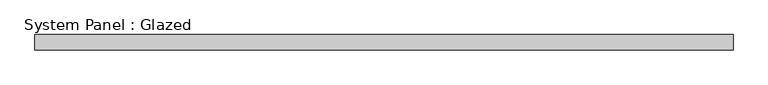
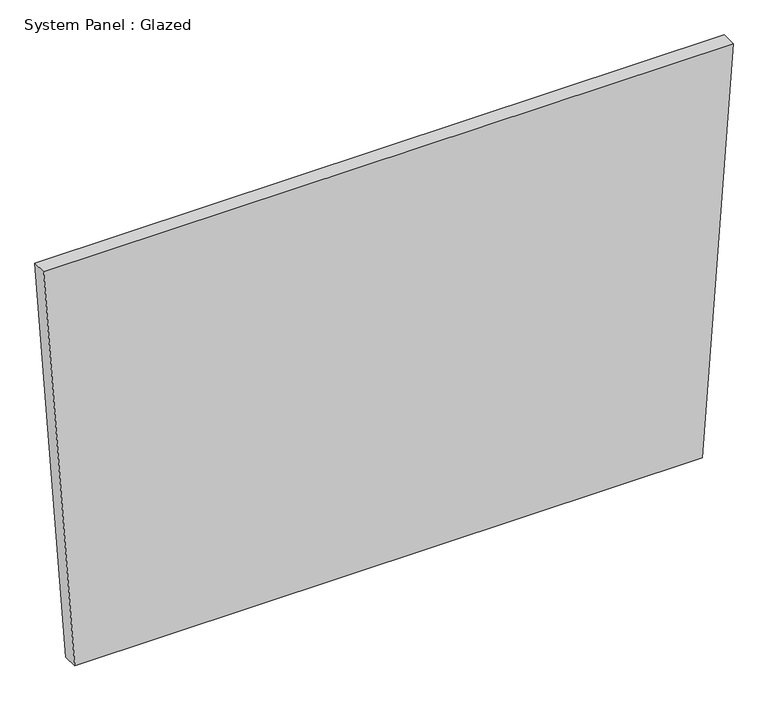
"""IFC4 building model written with IfcOpenShell, lengths in millimetres: plate geometry, System Panel : Glazed."""

from ifc_helpers import new_model, si_unit, frame, origin, place, context, project, spatial, polyline, outline, extrude, source, transform, mapped, element, save


def system_panel_glazed_c5cbc8f5(model_context):
    return source(origin(), model_context, "Body", "SweptSolid", [
        extrude(outline(polyline([(0.0, -530.8242707), (0.0, 530.8239097), (723.0000116, 583.3351775), (722.9950423, -583.3351775), (0.0, -530.8242707)])), frame((0.0, 19.05, 0.0), z_axis=(0.0, 1.0, 0.0), x_axis=(0.0, 0.0, 1.0)), (0.0, 0.0, 1.0), 25.4),
    ])


if __name__ == "__main__":
    model = new_model("IFC4")
    model_context = context("Model", 3, world=origin())
    ifc_project = project(units=[si_unit("LENGTHUNIT", "METRE", prefix="MILLI")], contexts=[model_context])
    site = spatial("IfcSite", under=ifc_project)
    building = spatial("IfcBuilding", under=site)
    placement = place(None, origin())
    system_panel_glazed_shape = system_panel_glazed_c5cbc8f5(model_context)
    element("IfcPlate", 1, ObjectType="System Panel : Glazed", at=placement, inside=building, context=model_context, shape_type="MappedRepresentation", body=[
        mapped(system_panel_glazed_shape, transform((0.0, 0.0, 0.0), x_axis=(1.0, 0.0, 0.0), y_axis=(0.0, 1.0, 0.0), z_axis=(0.0, 0.0, 1.0))),
    ])
    save(model, "model.ifc")
